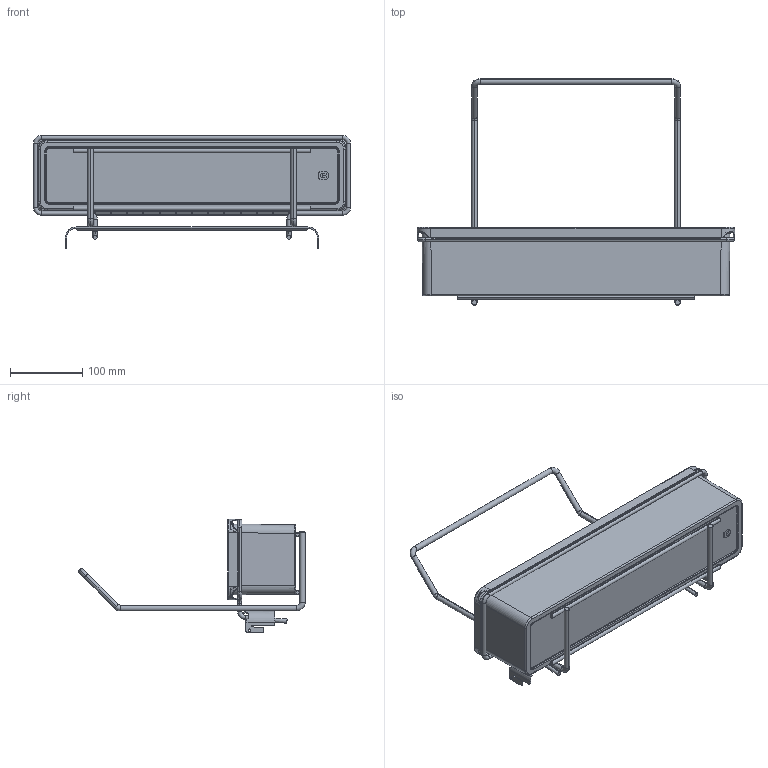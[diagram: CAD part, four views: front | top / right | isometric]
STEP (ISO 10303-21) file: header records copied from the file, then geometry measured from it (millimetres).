
FILE_DESCRIPTION((''),'2;1');
FILE_NAME('002151_ASM','2022-07-18T09:26:14',('1ke04'),('Kesseboehmer'),'CREO PARAMETRIC BY PTC INC, 2020184','CREO PARAMETRIC BY PTC INC, 2020184','');
FILE_SCHEMA(('AUTOMOTIVE_DESIGN { 1 0 10303 214 1 1 1 1 }'));
Products named in the file (7): 674574-00; 674576; 674575; 674553_ASM; 674339; 158974; 002151_ASM
Assembly tree (7 placements, depth 3):
  002151_ASM
    674553_ASM
      674574-00
      674576  x2
      674575
    674339
    158974
Bounding box: 441 x 314.19 x 158 mm (x, y, z)
Volume: 502490.1 mm3; surface area: 392826.6 mm2
Topology: 6 solids, 6 shells, 1386 faces, 3282 edges, 1926 vertices
Faces by surface type: bspline 556, cylinder 405, plane 205, torus 116, sphere 80, cone 12, extrusion 12
Entity records: 91446 total; most frequent: CARTESIAN_POINT 49862, ORIENTED_EDGE 6348, DIRECTION 5285, EDGE_CURVE 3174, PRESENTATION_STYLE_ASSIGNMENT 2956, CURVE_STYLE 2951, STYLED_ITEM 2944, POLYLINE 2236
